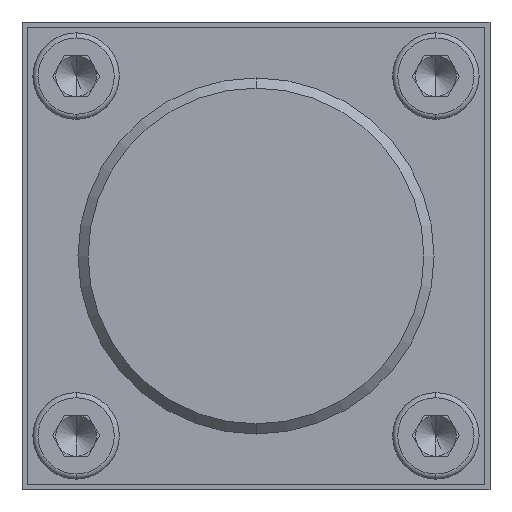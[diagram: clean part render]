
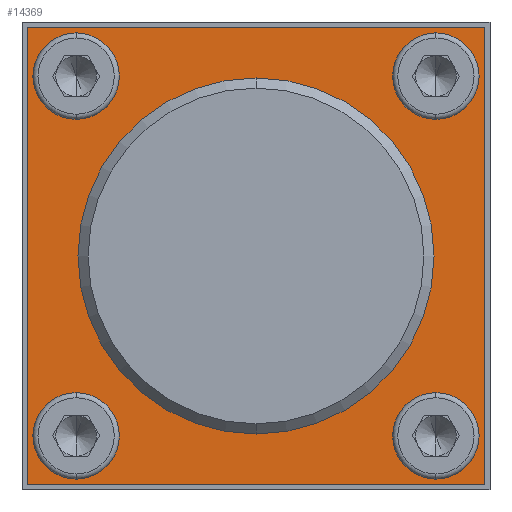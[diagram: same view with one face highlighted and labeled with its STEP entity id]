
A CAD part, left-side view. The second image highlights one B-rep face of the part: STEP entity #14369.
In plain terms, the highlighted planar face has unit normal (-1, 0, 0).
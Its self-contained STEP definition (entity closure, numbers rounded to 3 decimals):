
#305 = VERTEX_POINT ( 'NONE', #10765 ) ;
#377 = ORIENTED_EDGE ( 'NONE', *, *, #15707, .T. ) ;
#1031 = CARTESIAN_POINT ( 'NONE',  ( -10.3, 17.68, -13.43 ) ) ;
#1052 = EDGE_LOOP ( 'NONE', ( #20982, #19659 ) ) ;
#1239 = CARTESIAN_POINT ( 'NONE',  ( -10.3, 22.5, 22.5 ) ) ;
#1341 = CARTESIAN_POINT ( 'NONE',  ( -10.3, -22.5, 22.5 ) ) ;
#2109 = DIRECTION ( 'NONE',  ( 0., 0., 1. ) ) ;
#2209 = DIRECTION ( 'NONE',  ( 0., 0., 1. ) ) ;
#3178 = CARTESIAN_POINT ( 'NONE',  ( -10.3, -17.68, 21.93 ) ) ;
#3245 = FACE_BOUND ( 'NONE', #7862, .T. ) ;
#3321 = VERTEX_POINT ( 'NONE', #29572 ) ;
#3353 = VERTEX_POINT ( 'NONE', #27831 ) ;
#3460 = CARTESIAN_POINT ( 'NONE',  ( -10.3, 0., 0. ) ) ;
#3558 = VERTEX_POINT ( 'NONE', #27389 ) ;
#3578 = CARTESIAN_POINT ( 'NONE',  ( -10.3, 0., 0. ) ) ;
#3687 = DIRECTION ( 'NONE',  ( 0., 0., 1. ) ) ;
#3910 = DIRECTION ( 'NONE',  ( 0., 1., 0. ) ) ;
#3960 = AXIS2_PLACEMENT_3D ( 'NONE', #5037, #22299, #7526 ) ;
#3994 = VERTEX_POINT ( 'NONE', #1031 ) ;
#4188 = CARTESIAN_POINT ( 'NONE',  ( -10.3, 35., 0. ) ) ;
#4625 = EDGE_CURVE ( 'NONE', #3994, #11474, #26293, .T. ) ;
#4708 = CIRCLE ( 'NONE', #7250, 17.5 ) ;
#4737 = AXIS2_PLACEMENT_3D ( 'NONE', #3460, #20775, #6037 ) ;
#4871 = EDGE_CURVE ( 'NONE', #25958, #7997, #31191, .T. ) ;
#5037 = CARTESIAN_POINT ( 'NONE',  ( -10.3, -17.68, -17.68 ) ) ;
#5601 = CARTESIAN_POINT ( 'NONE',  ( -10.3, -17.68, -13.43 ) ) ;
#5606 = VERTEX_POINT ( 'NONE', #5601 ) ;
#6021 = AXIS2_PLACEMENT_3D ( 'NONE', #31559, #16970, #2109 ) ;
#6037 = DIRECTION ( 'NONE',  ( 0., 0., 1. ) ) ;
#6143 = DIRECTION ( 'NONE',  ( 0., 0., 1. ) ) ;
#6307 = AXIS2_PLACEMENT_3D ( 'NONE', #9977, #27182, #12475 ) ;
#6462 = DIRECTION ( 'NONE',  ( 0., 0., -1. ) ) ;
#6567 = CARTESIAN_POINT ( 'NONE',  ( -10.3, 22.5, 22.5 ) ) ;
#6644 = CIRCLE ( 'NONE', #9313, 4.25 ) ;
#6730 = DIRECTION ( 'NONE',  ( 0., 0., 1. ) ) ;
#6745 = DIRECTION ( 'NONE',  ( 0., 0., 1. ) ) ;
#6771 = DIRECTION ( 'NONE',  ( -1., 0., 0. ) ) ;
#6818 = CARTESIAN_POINT ( 'NONE',  ( -10.3, 0., 17.5 ) ) ;
#6855 = CARTESIAN_POINT ( 'NONE',  ( -10.3, 17.68, 17.68 ) ) ;
#7201 = DIRECTION ( 'NONE',  ( -1., 0., 0. ) ) ;
#7250 = AXIS2_PLACEMENT_3D ( 'NONE', #3578, #20887, #6143 ) ;
#7303 = DIRECTION ( 'NONE',  ( -1., 0., 0. ) ) ;
#7526 = DIRECTION ( 'NONE',  ( 0., 0., 1. ) ) ;
#7862 = EDGE_LOOP ( 'NONE', ( #28498, #27460 ) ) ;
#7997 = VERTEX_POINT ( 'NONE', #17153 ) ;
#8053 = AXIS2_PLACEMENT_3D ( 'NONE', #18014, #17975, #17910 ) ;
#8611 = ORIENTED_EDGE ( 'NONE', *, *, #15743, .T. ) ;
#9096 = PLANE ( 'NONE',  #15191 ) ;
#9313 = AXIS2_PLACEMENT_3D ( 'NONE', #21940, #7201, #24435 ) ;
#9885 = FACE_BOUND ( 'NONE', #1052, .T. ) ;
#9977 = CARTESIAN_POINT ( 'NONE',  ( -10.3, -17.68, 17.68 ) ) ;
#10765 = CARTESIAN_POINT ( 'NONE',  ( -10.3, -17.68, -21.93 ) ) ;
#11007 = AXIS2_PLACEMENT_3D ( 'NONE', #31664, #17075, #2209 ) ;
#11474 = VERTEX_POINT ( 'NONE', #14909 ) ;
#11695 = VECTOR ( 'NONE', #3910, 1000. ) ;
#11720 = EDGE_LOOP ( 'NONE', ( #17414, #16971, #377, #8611 ) ) ;
#12475 = DIRECTION ( 'NONE',  ( 0., 0., 1. ) ) ;
#12632 = AXIS2_PLACEMENT_3D ( 'NONE', #22049, #7303, #24535 ) ;
#13203 = CIRCLE ( 'NONE', #11007, 4.25 ) ;
#13403 = CIRCLE ( 'NONE', #6307, 4.25 ) ;
#13405 = EDGE_CURVE ( 'NONE', #5606, #305, #21608, .T. ) ;
#14101 = VERTEX_POINT ( 'NONE', #3178 ) ;
#14369 = ADVANCED_FACE ( 'NONE', ( #3245, #29431, #16421, #28694, #9885, #23807 ), #9096, .T. ) ;
#14384 = VECTOR ( 'NONE', #31054, 1000. ) ;
#14909 = CARTESIAN_POINT ( 'NONE',  ( -10.3, 17.68, -21.93 ) ) ;
#15123 = LINE ( 'NONE', #23821, #14384 ) ;
#15191 = AXIS2_PLACEMENT_3D ( 'NONE', #4188, #21491, #6730 ) ;
#15615 = EDGE_CURVE ( 'NONE', #17783, #25316, #4708, .T. ) ;
#15661 = EDGE_CURVE ( 'NONE', #3353, #3558, #31909, .T. ) ;
#15707 = EDGE_CURVE ( 'NONE', #3558, #23454, #24774, .T. ) ;
#15743 = EDGE_CURVE ( 'NONE', #23454, #3321, #28162, .T. ) ;
#15747 = EDGE_CURVE ( 'NONE', #3321, #3353, #15123, .T. ) ;
#15835 = EDGE_CURVE ( 'NONE', #16877, #14101, #19713, .T. ) ;
#15842 = EDGE_CURVE ( 'NONE', #305, #5606, #6644, .T. ) ;
#15876 = EDGE_CURVE ( 'NONE', #7997, #25958, #13203, .T. ) ;
#15880 = EDGE_CURVE ( 'NONE', #11474, #3994, #26287, .T. ) ;
#16421 = FACE_BOUND ( 'NONE', #17876, .T. ) ;
#16849 = EDGE_LOOP ( 'NONE', ( #24092, #22783 ) ) ;
#16877 = VERTEX_POINT ( 'NONE', #28489 ) ;
#16971 = ORIENTED_EDGE ( 'NONE', *, *, #15661, .T. ) ;
#16970 = DIRECTION ( 'NONE',  ( -1., 0., 0. ) ) ;
#17075 = DIRECTION ( 'NONE',  ( -1., 0., 0. ) ) ;
#17153 = CARTESIAN_POINT ( 'NONE',  ( -10.3, 17.68, 13.43 ) ) ;
#17414 = ORIENTED_EDGE ( 'NONE', *, *, #15747, .T. ) ;
#17762 = EDGE_CURVE ( 'NONE', #14101, #16877, #13403, .T. ) ;
#17783 = VERTEX_POINT ( 'NONE', #24759 ) ;
#17874 = CIRCLE ( 'NONE', #4737, 17.5 ) ;
#17876 = EDGE_LOOP ( 'NONE', ( #25519, #24482 ) ) ;
#17910 = DIRECTION ( 'NONE',  ( 0., 0., 1. ) ) ;
#17975 = DIRECTION ( 'NONE',  ( -1., 0., 0. ) ) ;
#18014 = CARTESIAN_POINT ( 'NONE',  ( -10.3, 17.68, -17.68 ) ) ;
#18617 = CARTESIAN_POINT ( 'NONE',  ( -10.3, -22.5, 22.5 ) ) ;
#19659 = ORIENTED_EDGE ( 'NONE', *, *, #15615, .F. ) ;
#19713 = CIRCLE ( 'NONE', #6021, 4.25 ) ;
#20775 = DIRECTION ( 'NONE',  ( -1., 0., 0. ) ) ;
#20887 = DIRECTION ( 'NONE',  ( -1., 0., 0. ) ) ;
#20982 = ORIENTED_EDGE ( 'NONE', *, *, #25685, .F. ) ;
#21491 = DIRECTION ( 'NONE',  ( -1., 0., 0. ) ) ;
#21608 = CIRCLE ( 'NONE', #3960, 4.25 ) ;
#21940 = CARTESIAN_POINT ( 'NONE',  ( -10.3, -17.68, -17.68 ) ) ;
#22049 = CARTESIAN_POINT ( 'NONE',  ( -10.3, 17.68, -17.68 ) ) ;
#22299 = DIRECTION ( 'NONE',  ( -1., 0., 0. ) ) ;
#22783 = ORIENTED_EDGE ( 'NONE', *, *, #15880, .F. ) ;
#23454 = VERTEX_POINT ( 'NONE', #1239 ) ;
#23807 = FACE_OUTER_BOUND ( 'NONE', #11720, .T. ) ;
#23821 = CARTESIAN_POINT ( 'NONE',  ( -10.3, -22.5, -22.5 ) ) ;
#24092 = ORIENTED_EDGE ( 'NONE', *, *, #4625, .F. ) ;
#24435 = DIRECTION ( 'NONE',  ( 0., 0., 1. ) ) ;
#24482 = ORIENTED_EDGE ( 'NONE', *, *, #15876, .F. ) ;
#24535 = DIRECTION ( 'NONE',  ( 0., 0., 1. ) ) ;
#24759 = CARTESIAN_POINT ( 'NONE',  ( -10.3, 0., -17.5 ) ) ;
#24774 = LINE ( 'NONE', #1341, #11695 ) ;
#25184 = AXIS2_PLACEMENT_3D ( 'NONE', #6855, #6771, #6745 ) ;
#25316 = VERTEX_POINT ( 'NONE', #6818 ) ;
#25519 = ORIENTED_EDGE ( 'NONE', *, *, #4871, .F. ) ;
#25685 = EDGE_CURVE ( 'NONE', #25316, #17783, #17874, .T. ) ;
#25958 = VERTEX_POINT ( 'NONE', #29248 ) ;
#25984 = ORIENTED_EDGE ( 'NONE', *, *, #15842, .F. ) ;
#26287 = CIRCLE ( 'NONE', #12632, 4.25 ) ;
#26293 = CIRCLE ( 'NONE', #8053, 4.25 ) ;
#26781 = ORIENTED_EDGE ( 'NONE', *, *, #13405, .F. ) ;
#27182 = DIRECTION ( 'NONE',  ( -1., 0., 0. ) ) ;
#27389 = CARTESIAN_POINT ( 'NONE',  ( -10.3, -22.5, 22.5 ) ) ;
#27423 = VECTOR ( 'NONE', #6462, 1000. ) ;
#27460 = ORIENTED_EDGE ( 'NONE', *, *, #15835, .F. ) ;
#27831 = CARTESIAN_POINT ( 'NONE',  ( -10.3, -22.5, -22.5 ) ) ;
#28162 = LINE ( 'NONE', #6567, #27423 ) ;
#28489 = CARTESIAN_POINT ( 'NONE',  ( -10.3, -17.68, 13.43 ) ) ;
#28498 = ORIENTED_EDGE ( 'NONE', *, *, #17762, .F. ) ;
#28694 = FACE_BOUND ( 'NONE', #16849, .T. ) ;
#29248 = CARTESIAN_POINT ( 'NONE',  ( -10.3, 17.68, 21.93 ) ) ;
#29431 = FACE_BOUND ( 'NONE', #30334, .T. ) ;
#29572 = CARTESIAN_POINT ( 'NONE',  ( -10.3, 22.5, -22.5 ) ) ;
#30334 = EDGE_LOOP ( 'NONE', ( #26781, #25984 ) ) ;
#31054 = DIRECTION ( 'NONE',  ( 0., -1., 0. ) ) ;
#31164 = VECTOR ( 'NONE', #3687, 1000. ) ;
#31191 = CIRCLE ( 'NONE', #25184, 4.25 ) ;
#31559 = CARTESIAN_POINT ( 'NONE',  ( -10.3, -17.68, 17.68 ) ) ;
#31664 = CARTESIAN_POINT ( 'NONE',  ( -10.3, 17.68, 17.68 ) ) ;
#31909 = LINE ( 'NONE', #18617, #31164 ) ;
